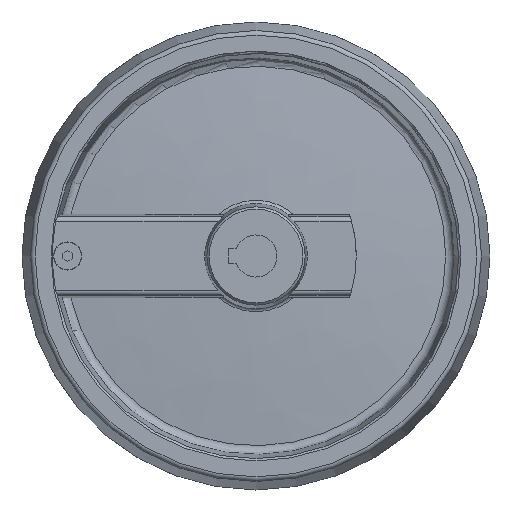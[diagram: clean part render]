
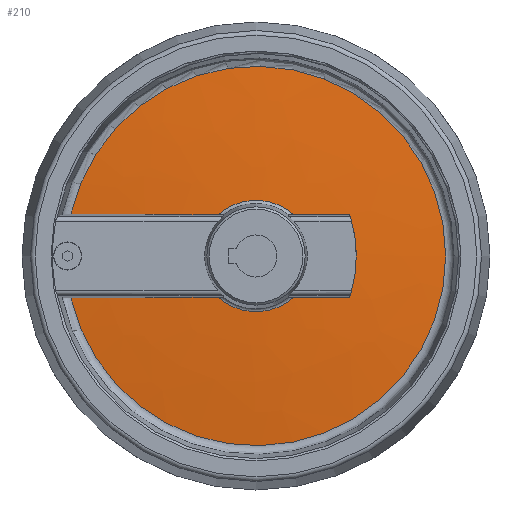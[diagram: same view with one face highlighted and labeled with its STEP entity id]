
A CAD part, left-side view. The second image highlights one B-rep face of the part: STEP entity #210.
In plain terms, the highlighted free-form (B-spline) face has degree [3, 3] with [4, 7] control points.
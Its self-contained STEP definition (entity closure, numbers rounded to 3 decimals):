
#210 = ADVANCED_FACE( '', ( #375 ), #376, .T. );
#375 = FACE_OUTER_BOUND( '', #662, .T. );
#376 = ( BOUNDED_SURFACE(  )B_SPLINE_SURFACE( 3, 3, ( ( #665, #666, #667, #668, #669, #670, #671 ), ( #672, #673, #674, #675, #676, #677, #678 ), ( #679, #680, #681, #682, #683, #684, #685 ), ( #686, #687, #688, #689, #690, #691, #692 ) ), .UNSPECIFIED., .F., .F., .F. )B_SPLINE_SURFACE_WITH_KNOTS( ( 4, 4 ), ( 4, 3, 4 ), ( 1.757, 7.667 ), ( -1.531, -1.502, -1.473 ), .UNSPECIFIED. )GEOMETRIC_REPRESENTATION_ITEM(  )RATIONAL_B_SPLINE_SURFACE( ( ( 1., 0.395, 0.395, 1., 0.395, 0.395, 1. ), ( 1., 0.395, 0.395, 1., 0.395, 0.395, 1. ), ( 1., 0.395, 0.395, 1., 0.395, 0.395, 1. ), ( 1., 0.395, 0.395, 1., 0.395, 0.395, 1. ) ) )REPRESENTATION_ITEM( '' )SURFACE(  ) );
#662 = EDGE_LOOP( '', ( #1269, #1270, #1271, #1272, #1273, #1274, #1275, #1276 ) );
#665 = CARTESIAN_POINT( '', ( 47.192, 79.651, 15.045 ) );
#666 = CARTESIAN_POINT( '', ( 47.192, 54.399, 148.733 ) );
#667 = CARTESIAN_POINT( '', ( 47.192, -81.06, 136.051 ) );
#668 = CARTESIAN_POINT( '', ( 47.192, -81.06, 0. ) );
#669 = CARTESIAN_POINT( '', ( 47.192, -81.06, -136.051 ) );
#670 = CARTESIAN_POINT( '', ( 47.192, 54.399, -148.733 ) );
#671 = CARTESIAN_POINT( '', ( 47.192, 79.651, -15.045 ) );
#672 = CARTESIAN_POINT( '', ( 45.331, 60.942, 11.511 ) );
#673 = CARTESIAN_POINT( '', ( 45.331, 41.621, 113.796 ) );
#674 = CARTESIAN_POINT( '', ( 45.331, -62.019, 104.093 ) );
#675 = CARTESIAN_POINT( '', ( 45.331, -62.019, 0. ) );
#676 = CARTESIAN_POINT( '', ( 45.331, -62.019, -104.093 ) );
#677 = CARTESIAN_POINT( '', ( 45.331, 41.621, -113.796 ) );
#678 = CARTESIAN_POINT( '', ( 45.331, 60.942, -11.511 ) );
#679 = CARTESIAN_POINT( '', ( 44.018, 42.187, 7.969 ) );
#680 = CARTESIAN_POINT( '', ( 44.018, 28.812, 78.776 ) );
#681 = CARTESIAN_POINT( '', ( 44.018, -42.933, 72.059 ) );
#682 = CARTESIAN_POINT( '', ( 44.018, -42.933, 0. ) );
#683 = CARTESIAN_POINT( '', ( 44.018, -42.933, -72.059 ) );
#684 = CARTESIAN_POINT( '', ( 44.018, 28.812, -78.776 ) );
#685 = CARTESIAN_POINT( '', ( 44.018, 42.187, -7.969 ) );
#686 = CARTESIAN_POINT( '', ( 43.253, 23.403, 4.421 ) );
#687 = CARTESIAN_POINT( '', ( 43.253, 15.984, 43.701 ) );
#688 = CARTESIAN_POINT( '', ( 43.253, -23.817, 39.975 ) );
#689 = CARTESIAN_POINT( '', ( 43.253, -23.817, 0. ) );
#690 = CARTESIAN_POINT( '', ( 43.253, -23.817, -39.975 ) );
#691 = CARTESIAN_POINT( '', ( 43.253, 15.984, -43.701 ) );
#692 = CARTESIAN_POINT( '', ( 43.253, 23.403, -4.421 ) );
#1269 = ORIENTED_EDGE( '', *, *, #1897, .F. );
#1270 = ORIENTED_EDGE( '', *, *, #1898, .T. );
#1271 = ORIENTED_EDGE( '', *, *, #1899, .F. );
#1272 = ORIENTED_EDGE( '', *, *, #1900, .F. );
#1273 = ORIENTED_EDGE( '', *, *, #1901, .F. );
#1274 = ORIENTED_EDGE( '', *, *, #1902, .T. );
#1275 = ORIENTED_EDGE( '', *, *, #1903, .F. );
#1276 = ORIENTED_EDGE( '', *, *, #1904, .F. );
#1897 = EDGE_CURVE( '', #2239, #2240, #2241, .T. );
#1898 = EDGE_CURVE( '', #2239, #2242, #2243, .T. );
#1899 = EDGE_CURVE( '', #2244, #2242, #2245, .T. );
#1900 = EDGE_CURVE( '', #2246, #2244, #2247, .T. );
#1901 = EDGE_CURVE( '', #2248, #2246, #2249, .T. );
#1902 = EDGE_CURVE( '', #2248, #2250, #2251, .T. );
#1903 = EDGE_CURVE( '', #2252, #2250, #2253, .T. );
#1904 = EDGE_CURVE( '', #2240, #2252, #2254, .T. );
#2239 = VERTEX_POINT( '', #2848 );
#2240 = VERTEX_POINT( '', #2849 );
#2241 = B_SPLINE_CURVE_WITH_KNOTS( '', 3, ( #2850, #2851, #2852, #2853, #2854, #2855, #2856, #2857 ), .UNSPECIFIED., .F., .F., ( 4, 2, 2, 4 ), ( 0.063, 0.079, 0.095, 0.126 ), .UNSPECIFIED. );
#2242 = VERTEX_POINT( '', #2858 );
#2243 = CIRCLE( '', #2859, 23.817 );
#2244 = VERTEX_POINT( '', #2860 );
#2245 = B_SPLINE_CURVE_WITH_KNOTS( '', 3, ( #2861, #2862, #2863, #2864 ), .UNSPECIFIED., .F., .F., ( 4, 4 ), ( 0.007, 0.031 ), .UNSPECIFIED. );
#2246 = VERTEX_POINT( '', #2865 );
#2247 = B_SPLINE_CURVE_WITH_KNOTS( '', 3, ( #2866, #2867, #2868, #2869, #2870, #2871, #2872, #2873, #2874, #2875, #2876, #2877, #2878, #2879 ), .UNSPECIFIED., .F., .F., ( 4, 2, 2, 2, 2, 2, 4 ), ( 0., 0.009, 0.018, 0.02, 0.023, 0.027, 0.036 ), .UNSPECIFIED. );
#2248 = VERTEX_POINT( '', #2880 );
#2249 = B_SPLINE_CURVE_WITH_KNOTS( '', 3, ( #2881, #2882, #2883, #2884 ), .UNSPECIFIED., .F., .F., ( 4, 4 ), ( 0.103, 0.127 ), .UNSPECIFIED. );
#2250 = VERTEX_POINT( '', #2885 );
#2251 = CIRCLE( '', #2886, 23.817 );
#2252 = VERTEX_POINT( '', #2887 );
#2253 = B_SPLINE_CURVE_WITH_KNOTS( '', 3, ( #2888, #2889, #2890, #2891, #2892, #2893, #2894, #2895 ), .UNSPECIFIED., .F., .F., ( 4, 2, 2, 4 ), ( 0.008, 0.04, 0.055, 0.071 ), .UNSPECIFIED. );
#2254 = CIRCLE( '', #2896, 81.06 );
#2848 = CARTESIAN_POINT( '', ( 43.253, 15.949, 17.688 ) );
#2849 = CARTESIAN_POINT( '', ( 47.192, 79.058, 17.901 ) );
#2850 = CARTESIAN_POINT( '', ( 43.253, 15.949, 17.688 ) );
#2851 = CARTESIAN_POINT( '', ( 43.394, 21.219, 17.696 ) );
#2852 = CARTESIAN_POINT( '', ( 43.592, 26.486, 17.707 ) );
#2853 = CARTESIAN_POINT( '', ( 44.076, 37.014, 17.733 ) );
#2854 = CARTESIAN_POINT( '', ( 44.364, 42.275, 17.748 ) );
#2855 = CARTESIAN_POINT( '', ( 45.356, 58.052, 17.802 ) );
#2856 = CARTESIAN_POINT( '', ( 46.19, 68.56, 17.847 ) );
#2857 = CARTESIAN_POINT( '', ( 47.192, 79.058, 17.901 ) );
#2858 = CARTESIAN_POINT( '', ( 43.253, -15.949, 17.688 ) );
#2859 = AXIS2_PLACEMENT_3D( '', #3576, #3577, #3578 );
#2860 = CARTESIAN_POINT( '', ( 44.248, -39.957, 17.742 ) );
#2861 = CARTESIAN_POINT( '', ( 44.248, -39.957, 17.742 ) );
#2862 = CARTESIAN_POINT( '', ( 43.809, -31.958, 17.718 ) );
#2863 = CARTESIAN_POINT( '', ( 43.468, -23.956, 17.7 ) );
#2864 = CARTESIAN_POINT( '', ( 43.253, -15.949, 17.688 ) );
#2865 = CARTESIAN_POINT( '', ( 44.248, -39.957, -17.742 ) );
#2866 = CARTESIAN_POINT( '', ( 44.248, -39.957, -17.742 ) );
#2867 = CARTESIAN_POINT( '', ( 44.231, -40.92, -14.864 ) );
#2868 = CARTESIAN_POINT( '', ( 44.218, -41.638, -11.948 ) );
#2869 = CARTESIAN_POINT( '', ( 44.201, -42.601, -6.039 ) );
#2870 = CARTESIAN_POINT( '', ( 44.196, -42.846, -3.047 ) );
#2871 = CARTESIAN_POINT( '', ( 44.196, -42.848, 0.742 ) );
#2872 = CARTESIAN_POINT( '', ( 44.197, -42.832, 1.501 ) );
#2873 = CARTESIAN_POINT( '', ( 44.198, -42.771, 3.012 ) );
#2874 = CARTESIAN_POINT( '', ( 44.199, -42.725, 3.765 ) );
#2875 = CARTESIAN_POINT( '', ( 44.202, -42.543, 6.015 ) );
#2876 = CARTESIAN_POINT( '', ( 44.205, -42.361, 7.505 ) );
#2877 = CARTESIAN_POINT( '', ( 44.218, -41.638, 11.945 ) );
#2878 = CARTESIAN_POINT( '', ( 44.231, -40.92, 14.864 ) );
#2879 = CARTESIAN_POINT( '', ( 44.248, -39.957, 17.742 ) );
#2880 = CARTESIAN_POINT( '', ( 43.253, -15.949, -17.688 ) );
#2881 = CARTESIAN_POINT( '', ( 43.253, -15.949, -17.688 ) );
#2882 = CARTESIAN_POINT( '', ( 43.468, -23.956, -17.7 ) );
#2883 = CARTESIAN_POINT( '', ( 43.809, -31.958, -17.718 ) );
#2884 = CARTESIAN_POINT( '', ( 44.248, -39.957, -17.742 ) );
#2885 = CARTESIAN_POINT( '', ( 43.253, 15.949, -17.688 ) );
#2886 = AXIS2_PLACEMENT_3D( '', #3579, #3580, #3581 );
#2887 = CARTESIAN_POINT( '', ( 47.192, 79.058, -17.901 ) );
#2888 = CARTESIAN_POINT( '', ( 47.192, 79.058, -17.901 ) );
#2889 = CARTESIAN_POINT( '', ( 46.19, 68.56, -17.847 ) );
#2890 = CARTESIAN_POINT( '', ( 45.356, 58.052, -17.802 ) );
#2891 = CARTESIAN_POINT( '', ( 44.364, 42.275, -17.748 ) );
#2892 = CARTESIAN_POINT( '', ( 44.076, 37.014, -17.733 ) );
#2893 = CARTESIAN_POINT( '', ( 43.592, 26.486, -17.707 ) );
#2894 = CARTESIAN_POINT( '', ( 43.394, 21.219, -17.696 ) );
#2895 = CARTESIAN_POINT( '', ( 43.253, 15.949, -17.688 ) );
#2896 = AXIS2_PLACEMENT_3D( '', #3582, #3583, #3584 );
#3576 = CARTESIAN_POINT( '', ( 43.253, 0., 0. ) );
#3577 = DIRECTION( '', ( 1., 0., 0. ) );
#3578 = DIRECTION( '', ( 0., 0., -1. ) );
#3579 = CARTESIAN_POINT( '', ( 43.253, 0., 0. ) );
#3580 = DIRECTION( '', ( 1., 0., 0. ) );
#3581 = DIRECTION( '', ( 0., 0., -1. ) );
#3582 = CARTESIAN_POINT( '', ( 47.192, 0., 0. ) );
#3583 = DIRECTION( '', ( 1., 0., 0. ) );
#3584 = DIRECTION( '', ( 0., 0., -1. ) );
